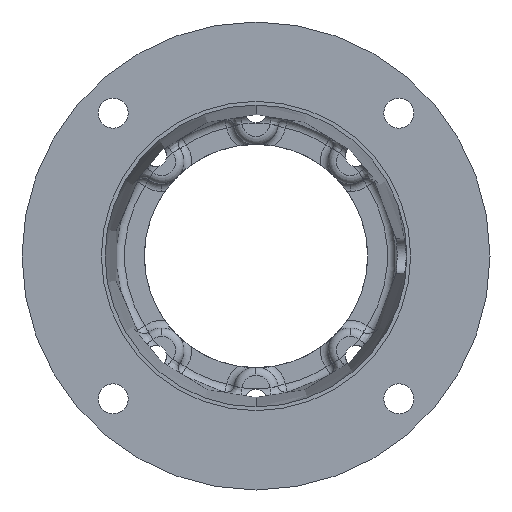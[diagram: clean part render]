
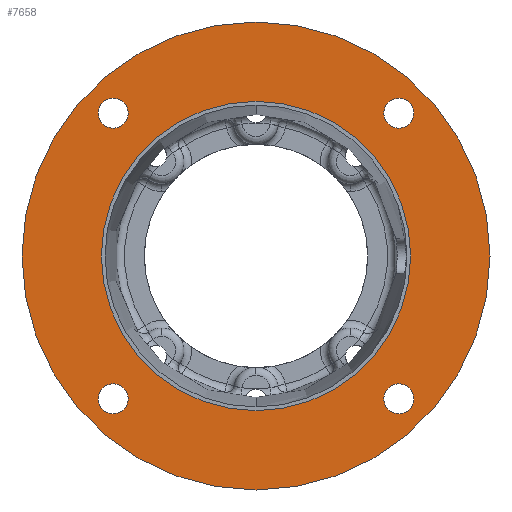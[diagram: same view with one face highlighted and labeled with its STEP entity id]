
A CAD part, front view. The second image highlights one B-rep face of the part: STEP entity #7658.
In plain terms, the highlighted planar face has unit normal (0, -1, 0).
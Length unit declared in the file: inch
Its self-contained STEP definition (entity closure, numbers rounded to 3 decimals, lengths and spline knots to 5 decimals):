
#280 = VERTEX_POINT ( 'NONE', #1143 ) ;
#351 = VERTEX_POINT ( 'NONE', #1329 ) ;
#356 = EDGE_CURVE ( 'NONE', #357, #358, #1324, .T. ) ;
#357 = VERTEX_POINT ( 'NONE', #1319 ) ;
#358 = VERTEX_POINT ( 'NONE', #1318 ) ;
#360 = EDGE_CURVE ( 'NONE', #351, #426, #1317, .T. ) ;
#395 = VERTEX_POINT ( 'NONE', #1367 ) ;
#401 = EDGE_CURVE ( 'NONE', #280, #471, #1421, .T. ) ;
#402 = EDGE_CURVE ( 'NONE', #472, #395, #1416, .T. ) ;
#404 = EDGE_CURVE ( 'NONE', #419, #405, #1410, .T. ) ;
#405 = VERTEX_POINT ( 'NONE', #1405 ) ;
#419 = VERTEX_POINT ( 'NONE', #1434 ) ;
#426 = VERTEX_POINT ( 'NONE', #1471 ) ;
#471 = VERTEX_POINT ( 'NONE', #1564 ) ;
#472 = VERTEX_POINT ( 'NONE', #1563 ) ;
#1143 = CARTESIAN_POINT ( 'NONE',  ( 2.07889, 0., 1.86014 ) ) ;
#1313 = DIRECTION ( 'NONE',  ( 0., 0., -1. ) ) ;
#1314 = DIRECTION ( 'NONE',  ( 0., -1., 0. ) ) ;
#1315 = CARTESIAN_POINT ( 'NONE',  ( 0., 0., 0. ) ) ;
#1316 = AXIS2_PLACEMENT_3D ( 'NONE', #1315, #1314, #1313 ) ;
#1317 = CIRCLE ( 'NONE', #1316, 2.2505 ) ;
#1318 = CARTESIAN_POINT ( 'NONE',  ( 2.07889, 0., -1.86014 ) ) ;
#1319 = CARTESIAN_POINT ( 'NONE',  ( 2.07889, 0., -2.29764 ) ) ;
#1320 = DIRECTION ( 'NONE',  ( 0., 0., 1. ) ) ;
#1321 = DIRECTION ( 'NONE',  ( 0., 1., 0. ) ) ;
#1322 = CARTESIAN_POINT ( 'NONE',  ( 2.07889, 0., -2.07889 ) ) ;
#1323 = AXIS2_PLACEMENT_3D ( 'NONE', #1322, #1321, #1320 ) ;
#1324 = CIRCLE ( 'NONE', #1323, 0.21875 ) ;
#1329 = CARTESIAN_POINT ( 'NONE',  ( 0., 0., 2.2505 ) ) ;
#1367 = CARTESIAN_POINT ( 'NONE',  ( -2.07889, 0., 2.29764 ) ) ;
#1405 = CARTESIAN_POINT ( 'NONE',  ( -2.07889, 0., -1.86014 ) ) ;
#1406 = DIRECTION ( 'NONE',  ( 0., 0., 1. ) ) ;
#1407 = DIRECTION ( 'NONE',  ( 0., 1., 0. ) ) ;
#1408 = CARTESIAN_POINT ( 'NONE',  ( -2.07889, 0., -2.07889 ) ) ;
#1409 = AXIS2_PLACEMENT_3D ( 'NONE', #1408, #1407, #1406 ) ;
#1410 = CIRCLE ( 'NONE', #1409, 0.21875 ) ;
#1412 = DIRECTION ( 'NONE',  ( 0., 0., 1. ) ) ;
#1413 = DIRECTION ( 'NONE',  ( 0., 1., 0. ) ) ;
#1414 = CARTESIAN_POINT ( 'NONE',  ( -2.07889, 0., 2.07889 ) ) ;
#1415 = AXIS2_PLACEMENT_3D ( 'NONE', #1414, #1413, #1412 ) ;
#1416 = CIRCLE ( 'NONE', #1415, 0.21875 ) ;
#1417 = DIRECTION ( 'NONE',  ( 0., 0., 1. ) ) ;
#1418 = DIRECTION ( 'NONE',  ( 0., 1., 0. ) ) ;
#1419 = CARTESIAN_POINT ( 'NONE',  ( 2.07889, 0., 2.07889 ) ) ;
#1420 = AXIS2_PLACEMENT_3D ( 'NONE', #1419, #1418, #1417 ) ;
#1421 = CIRCLE ( 'NONE', #1420, 0.21875 ) ;
#1434 = CARTESIAN_POINT ( 'NONE',  ( -2.07889, 0., -2.29764 ) ) ;
#1471 = CARTESIAN_POINT ( 'NONE',  ( 0., 0., -2.2505 ) ) ;
#1563 = CARTESIAN_POINT ( 'NONE',  ( -2.07889, 0., 1.86014 ) ) ;
#1564 = CARTESIAN_POINT ( 'NONE',  ( 2.07889, 0., 2.29764 ) ) ;
#4090 = DIRECTION ( 'NONE',  ( 0., 0., -1. ) ) ;
#4091 = DIRECTION ( 'NONE',  ( 0., -1., 0. ) ) ;
#4092 = CARTESIAN_POINT ( 'NONE',  ( 0., 0., 0. ) ) ;
#4093 = AXIS2_PLACEMENT_3D ( 'NONE', #4092, #4091, #4090 ) ;
#4094 = CIRCLE ( 'NONE', #4093, 3.405 ) ;
#4146 = DIRECTION ( 'NONE',  ( 0., 0., 1. ) ) ;
#4147 = DIRECTION ( 'NONE',  ( 0., 1., 0. ) ) ;
#4148 = CARTESIAN_POINT ( 'NONE',  ( -2.07889, 0., 2.07889 ) ) ;
#4149 = AXIS2_PLACEMENT_3D ( 'NONE', #4148, #4147, #4146 ) ;
#4150 = CIRCLE ( 'NONE', #4149, 0.21875 ) ;
#4180 = DIRECTION ( 'NONE',  ( 0., 0., 1. ) ) ;
#4181 = DIRECTION ( 'NONE',  ( 0., 1., 0. ) ) ;
#4182 = CARTESIAN_POINT ( 'NONE',  ( -2.20315, 0., 0. ) ) ;
#4183 = AXIS2_PLACEMENT_3D ( 'NONE', #4182, #4181, #4180 ) ;
#4184 = PLANE ( 'NONE',  #4183 ) ;
#4185 = FACE_OUTER_BOUND ( 'NONE', #7711, .T. ) ;
#4186 = FACE_BOUND ( 'NONE', #7707, .T. ) ;
#4187 = FACE_BOUND ( 'NONE', #7644, .T. ) ;
#4188 = FACE_BOUND ( 'NONE', #7725, .T. ) ;
#4189 = FACE_BOUND ( 'NONE', #7721, .T. ) ;
#4190 = FACE_BOUND ( 'NONE', #7659, .T. ) ;
#4269 = DIRECTION ( 'NONE',  ( 0., 0., 1. ) ) ;
#4270 = DIRECTION ( 'NONE',  ( 0., 1., 0. ) ) ;
#4271 = CARTESIAN_POINT ( 'NONE',  ( 2.07889, 0., -2.07889 ) ) ;
#4272 = AXIS2_PLACEMENT_3D ( 'NONE', #4271, #4270, #4269 ) ;
#4273 = CIRCLE ( 'NONE', #4272, 0.21875 ) ;
#4274 = CARTESIAN_POINT ( 'NONE',  ( -2.07889, 0., -2.07889 ) ) ;
#4275 = DIRECTION ( 'NONE',  ( 0., 0., -1. ) ) ;
#4276 = DIRECTION ( 'NONE',  ( 0., -1., 0. ) ) ;
#4277 = CARTESIAN_POINT ( 'NONE',  ( 0., 0., 0. ) ) ;
#4278 = AXIS2_PLACEMENT_3D ( 'NONE', #4277, #4276, #4275 ) ;
#4279 = CIRCLE ( 'NONE', #4278, 2.2505 ) ;
#4290 = DIRECTION ( 'NONE',  ( 0., 0., 1. ) ) ;
#4291 = DIRECTION ( 'NONE',  ( 0., 1., 0. ) ) ;
#4292 = CARTESIAN_POINT ( 'NONE',  ( 2.07889, 0., 2.07889 ) ) ;
#4293 = AXIS2_PLACEMENT_3D ( 'NONE', #4292, #4291, #4290 ) ;
#4294 = CIRCLE ( 'NONE', #4293, 0.21875 ) ;
#4325 = DIRECTION ( 'NONE',  ( 0., 0., 1. ) ) ;
#4326 = DIRECTION ( 'NONE',  ( 0., 1., 0. ) ) ;
#4327 = AXIS2_PLACEMENT_3D ( 'NONE', #4274, #4326, #4325 ) ;
#4328 = CIRCLE ( 'NONE', #4327, 0.21875 ) ;
#6793 = CARTESIAN_POINT ( 'NONE',  ( 0., 0., 3.405 ) ) ;
#6794 = DIRECTION ( 'NONE',  ( 0., 0., -1. ) ) ;
#6795 = DIRECTION ( 'NONE',  ( 0., -1., 0. ) ) ;
#6796 = CARTESIAN_POINT ( 'NONE',  ( 0., 0., 0. ) ) ;
#6797 = AXIS2_PLACEMENT_3D ( 'NONE', #6796, #6795, #6794 ) ;
#6798 = CIRCLE ( 'NONE', #6797, 3.405 ) ;
#6811 = CARTESIAN_POINT ( 'NONE',  ( 0., 0., -3.405 ) ) ;
#7602 = EDGE_CURVE ( 'NONE', #8511, #8505, #4094, .T. ) ;
#7644 = EDGE_LOOP ( 'NONE', ( #7645, #7706 ) ) ;
#7645 = ORIENTED_EDGE ( 'NONE', *, *, #7646, .T. ) ;
#7646 = EDGE_CURVE ( 'NONE', #395, #472, #4150, .T. ) ;
#7658 = ADVANCED_FACE ( 'NONE', ( #4190, #4189, #4188, #4187, #4186, #4185 ), #4184, .F. ) ;
#7659 = EDGE_LOOP ( 'NONE', ( #7660, #7720 ) ) ;
#7660 = ORIENTED_EDGE ( 'NONE', *, *, #7719, .F. ) ;
#7706 = ORIENTED_EDGE ( 'NONE', *, *, #402, .T. ) ;
#7707 = EDGE_LOOP ( 'NONE', ( #7708, #7710 ) ) ;
#7708 = ORIENTED_EDGE ( 'NONE', *, *, #7709, .T. ) ;
#7709 = EDGE_CURVE ( 'NONE', #471, #280, #4294, .T. ) ;
#7710 = ORIENTED_EDGE ( 'NONE', *, *, #401, .T. ) ;
#7711 = EDGE_LOOP ( 'NONE', ( #7712, #7713 ) ) ;
#7712 = ORIENTED_EDGE ( 'NONE', *, *, #8508, .T. ) ;
#7713 = ORIENTED_EDGE ( 'NONE', *, *, #7602, .T. ) ;
#7719 = EDGE_CURVE ( 'NONE', #426, #351, #4279, .T. ) ;
#7720 = ORIENTED_EDGE ( 'NONE', *, *, #360, .F. ) ;
#7721 = EDGE_LOOP ( 'NONE', ( #7722, #7724 ) ) ;
#7722 = ORIENTED_EDGE ( 'NONE', *, *, #7723, .T. ) ;
#7723 = EDGE_CURVE ( 'NONE', #358, #357, #4273, .T. ) ;
#7724 = ORIENTED_EDGE ( 'NONE', *, *, #356, .T. ) ;
#7725 = EDGE_LOOP ( 'NONE', ( #7726, #7728 ) ) ;
#7726 = ORIENTED_EDGE ( 'NONE', *, *, #7727, .T. ) ;
#7727 = EDGE_CURVE ( 'NONE', #405, #419, #4328, .T. ) ;
#7728 = ORIENTED_EDGE ( 'NONE', *, *, #404, .T. ) ;
#8505 = VERTEX_POINT ( 'NONE', #6811 ) ;
#8508 = EDGE_CURVE ( 'NONE', #8505, #8511, #6798, .T. ) ;
#8511 = VERTEX_POINT ( 'NONE', #6793 ) ;
